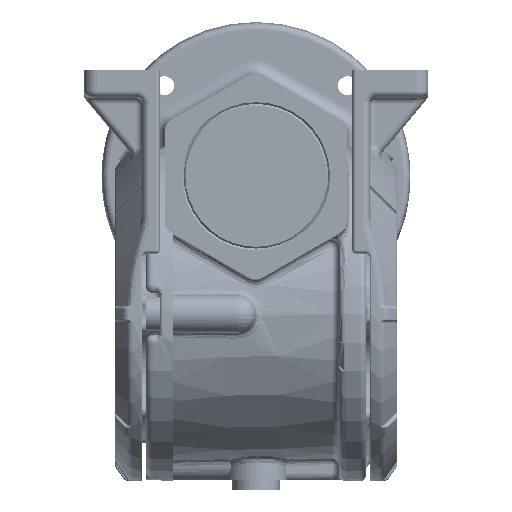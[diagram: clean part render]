
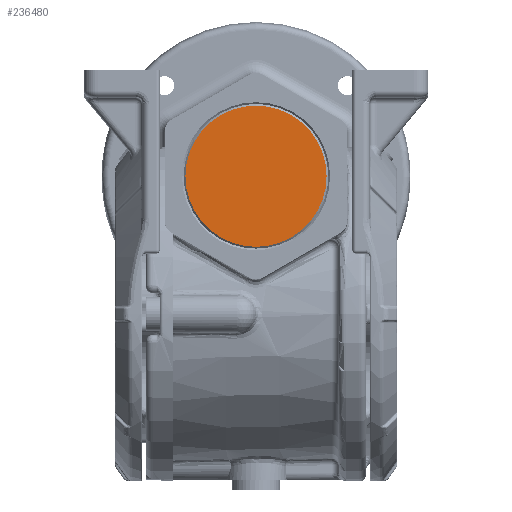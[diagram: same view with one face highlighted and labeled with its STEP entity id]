
A CAD part, top view. The second image highlights one B-rep face of the part: STEP entity #236480.
In plain terms, the highlighted planar face has unit normal (0, 0, 1).
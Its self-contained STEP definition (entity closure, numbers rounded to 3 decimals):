
#53712 = DIRECTION ( 'NONE',  ( 0., 1., 0. ) ) ;
#53715 = DIRECTION ( 'NONE',  ( 0., 0., -1. ) ) ;
#53717 = CARTESIAN_POINT ( 'NONE',  ( 0., 0., 0. ) ) ;
#53719 = AXIS2_PLACEMENT_3D ( 'NONE', #53717, #53715, #53712 ) ;
#53722 = CIRCLE ( 'NONE', #53719, 20.5 ) ;
#54484 = DIRECTION ( 'NONE',  ( 0., -1., 0. ) ) ;
#54487 = DIRECTION ( 'NONE',  ( 0., 0., 1. ) ) ;
#54491 = CARTESIAN_POINT ( 'NONE',  ( 0., 0., 0. ) ) ;
#54493 = AXIS2_PLACEMENT_3D ( 'NONE', #54491, #54487, #54484 ) ;
#54495 = PLANE ( 'NONE',  #54493 ) ;
#54504 = FACE_OUTER_BOUND ( 'NONE', #236586, .T. ) ;
#131090 = VERTEX_POINT ( 'NONE', #227448 ) ;
#131092 = EDGE_CURVE ( 'NONE', #131090, #131154, #227445, .T. ) ;
#131154 = VERTEX_POINT ( 'NONE', #228409 ) ;
#227442 = DIRECTION ( 'NONE',  ( 0., 0., -1. ) ) ;
#227443 = CARTESIAN_POINT ( 'NONE',  ( 0., 0., 0. ) ) ;
#227444 = AXIS2_PLACEMENT_3D ( 'NONE', #227443, #227442, #227563 ) ;
#227445 = CIRCLE ( 'NONE', #227444, 20.5 ) ;
#227448 = CARTESIAN_POINT ( 'NONE',  ( 0., 20.5, 0. ) ) ;
#227563 = DIRECTION ( 'NONE',  ( 0., 1., 0. ) ) ;
#228409 = CARTESIAN_POINT ( 'NONE',  ( 0., -20.5, 0. ) ) ;
#236385 = EDGE_CURVE ( 'NONE', #131154, #131090, #53722, .T. ) ;
#236410 = ORIENTED_EDGE ( 'NONE', *, *, #131092, .F. ) ;
#236480 = ADVANCED_FACE ( 'NONE', ( #54504 ), #54495, .T. ) ;
#236547 = ORIENTED_EDGE ( 'NONE', *, *, #236385, .F. ) ;
#236586 = EDGE_LOOP ( 'NONE', ( #236410, #236547 ) ) ;
